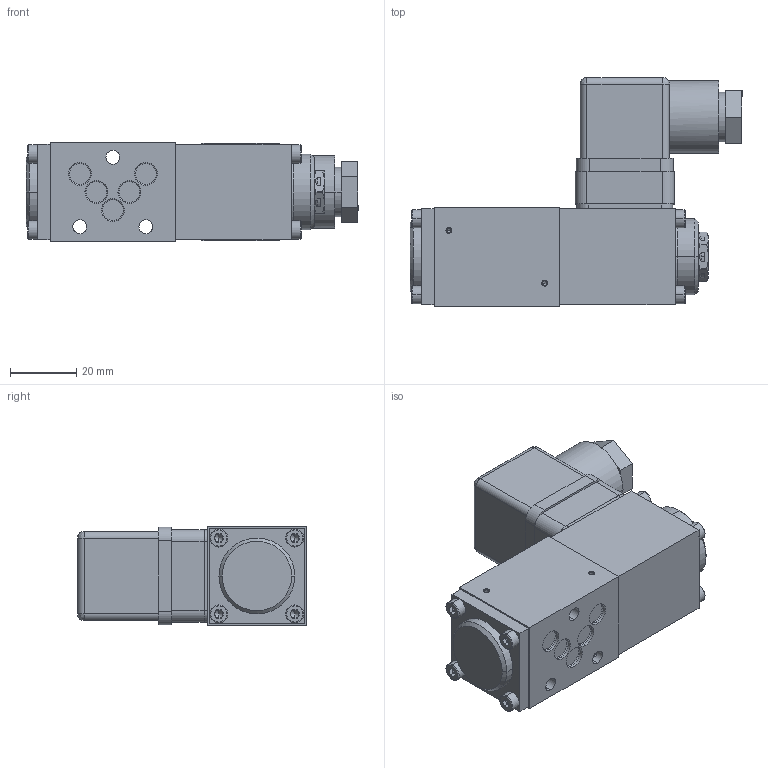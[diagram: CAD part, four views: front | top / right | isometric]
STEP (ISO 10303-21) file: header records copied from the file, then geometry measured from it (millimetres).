
FILE_DESCRIPTION (( 'STEP AP214' ), '1' );
FILE_NAME ('WDPFA03-4_2-Bside.STEP', '2017-03-07T13:59:25', ( '' ), ( '' ), 'SwSTEP 2.0', 'SolidWorks 2016', '' );
FILE_SCHEMA (( 'AUTOMOTIVE_DESIGN' ));
Length unit declared in the file: millimetre
Products named in the file (1): WDPFA03-4_2-Bside
Bounding box: 100.55 x 69.3 x 30 mm (x, y, z)
Volume: 100359.3 mm3; surface area: 31874.3 mm2
Topology: 7 solids, 24 shells, 1263 faces, 3671 edges, 2364 vertices
Faces by surface type: plane 741, cylinder 345, cone 98, torus 44, bspline 31, sphere 4
Entity records: 57274 total; most frequent: CARTESIAN_POINT 9431, ORIENTED_EDGE 7258, DIRECTION 7190, EDGE_CURVE 3629, AXIS2_PLACEMENT_3D 2457, VERTEX_POINT 2364, VECTOR 2276, LINE 2276
